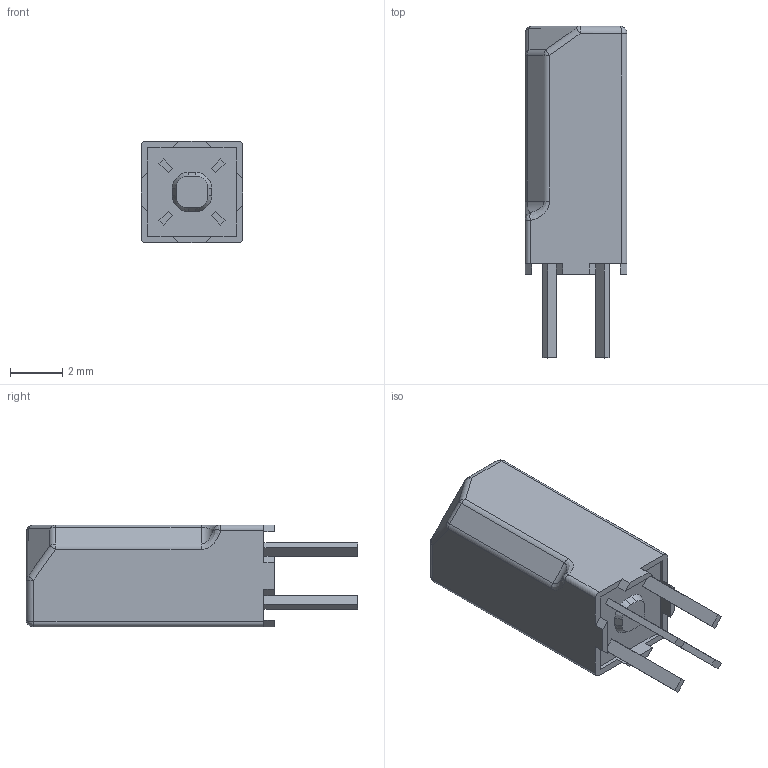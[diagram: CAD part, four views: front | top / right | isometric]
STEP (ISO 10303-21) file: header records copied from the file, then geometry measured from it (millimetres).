
FILE_DESCRIPTION (( 'STEP AP214' ), '1' );
FILE_NAME ('124-1-A-5-2.STEP', '2018-06-11T10:49:00', ( 'admin' ), ( '' ), 'SwSTEP 2.0', 'SolidWorks 2017', '' );
FILE_SCHEMA (( 'AUTOMOTIVE_DESIGN' ));
Length unit declared in the file: millimetre
Products named in the file (1): 124-1-A-5-2
Bounding box: 3.9 x 12.7 x 3.9 mm (x, y, z)
Volume: 135.6 mm3; surface area: 193.8 mm2
Topology: 1 solids, 1 shells, 372 faces, 1003 edges, 656 vertices
Faces by surface type: plane 181, bspline 168, cylinder 15, sphere 4, cone 4
Entity records: 21553 total; most frequent: CARTESIAN_POINT 9898, ORIENTED_EDGE 1994, DIRECTION 1101, EDGE_CURVE 997, VERTEX_POINT 656, VECTOR 631, LINE 631, EDGE_LOOP 401
